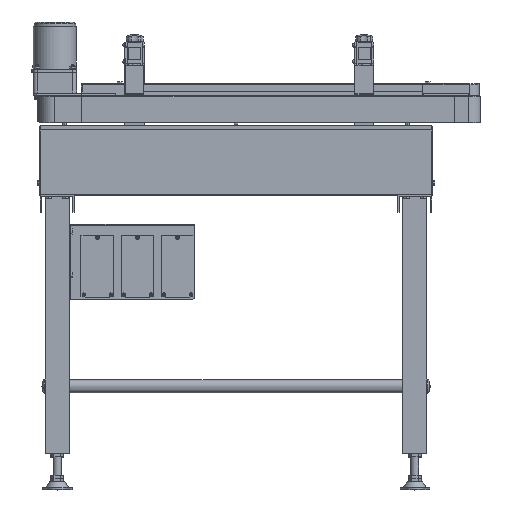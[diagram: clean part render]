
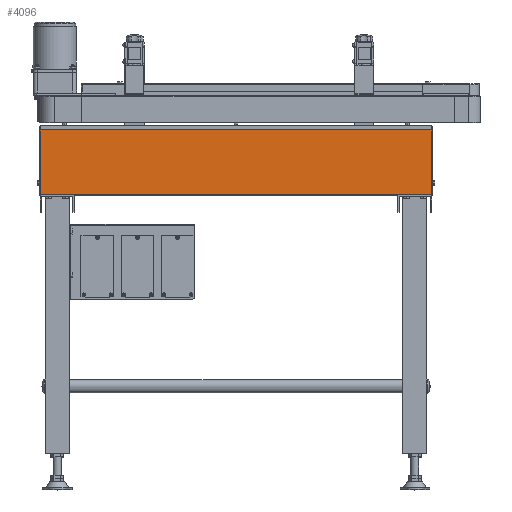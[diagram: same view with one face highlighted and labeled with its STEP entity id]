
A CAD part, top view. The second image highlights one B-rep face of the part: STEP entity #4096.
In plain terms, the highlighted planar face has unit normal (0, 0, 1).
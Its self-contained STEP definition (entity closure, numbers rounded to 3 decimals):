
#4096=ADVANCED_FACE('',(#13659),#13658,.F.);
#13658=PLANE('',#40212);
#13659=FACE_OUTER_BOUND('',#40213,.T.);
#40209=CARTESIAN_POINT('',(-10.,-150.,300.));
#40210=DIRECTION('',(0.,0.,-1.));
#40211=DIRECTION('',(0.,1.,0.));
#40212=AXIS2_PLACEMENT_3D('',#40209,#40210,#40211);
#40213=EDGE_LOOP('',(#57933,#57934,#57935,#57936));
#57933=ORIENTED_EDGE('',*,*,#71170,.F.);
#57934=ORIENTED_EDGE('',*,*,#70864,.T.);
#57935=ORIENTED_EDGE('',*,*,#71197,.T.);
#57936=ORIENTED_EDGE('',*,*,#71198,.F.);
#70864=EDGE_CURVE('',#88335,#88336,#88337,.T.);
#71170=EDGE_CURVE('',#88335,#90370,#90371,.T.);
#71197=EDGE_CURVE('',#88336,#90550,#90551,.T.);
#71198=EDGE_CURVE('',#90370,#90550,#90557,.T.);
#88335=VERTEX_POINT('',#134349);
#88336=VERTEX_POINT('',#134350);
#88337=LINE('',#134351,#134352);
#90370=VERTEX_POINT('',#135466);
#90371=LINE('',#135467,#135468);
#90550=VERTEX_POINT('',#135565);
#90551=LINE('',#135566,#135567);
#90557=LINE('',#135569,#135570);
#134349=CARTESIAN_POINT('',(810.,-6.,300.));
#134350=CARTESIAN_POINT('',(0.,-6.,300.));
#134351=CARTESIAN_POINT('',(810.,-6.,300.));
#134352=VECTOR('',#134353,810.);
#134353=DIRECTION('',(-1.,0.,0.));
#135466=CARTESIAN_POINT('',(810.,-140.,300.));
#135467=CARTESIAN_POINT('',(810.,-6.,300.));
#135468=VECTOR('',#135469,134.);
#135469=DIRECTION('',(0.,-1.,0.));
#135565=CARTESIAN_POINT('',(0.,-140.,300.));
#135566=CARTESIAN_POINT('',(0.,-6.,300.));
#135567=VECTOR('',#135568,134.);
#135568=DIRECTION('',(0.,-1.,0.));
#135569=CARTESIAN_POINT('',(810.,-140.,300.));
#135570=VECTOR('',#135571,810.);
#135571=DIRECTION('',(-1.,0.,0.));
